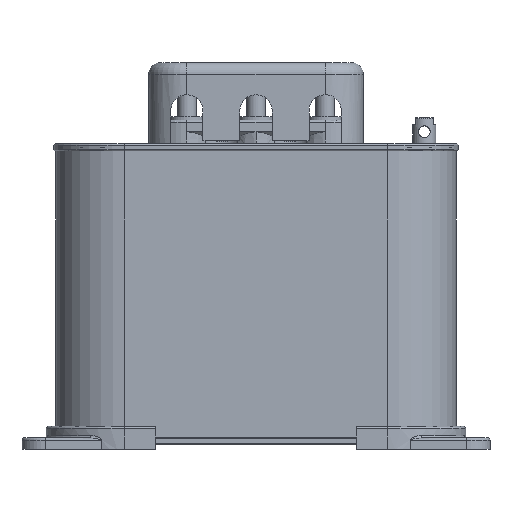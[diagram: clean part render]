
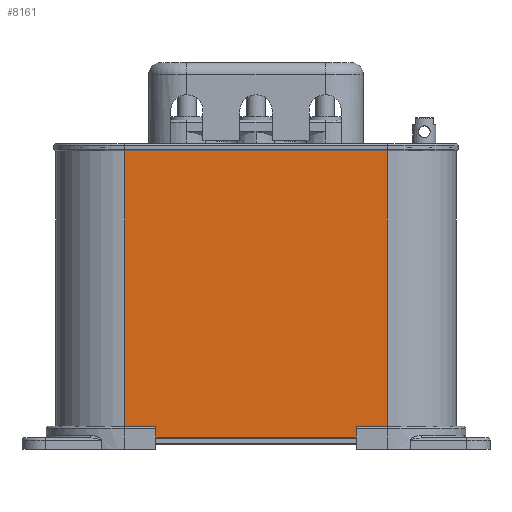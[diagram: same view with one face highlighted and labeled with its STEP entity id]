
A CAD part, front view. The second image highlights one B-rep face of the part: STEP entity #8161.
In plain terms, the highlighted planar face has unit normal (0, -1, 0).
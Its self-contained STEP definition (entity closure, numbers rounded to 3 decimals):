
#685=DIRECTION('',(-1.,0.,0.));
#686=VECTOR('',#685,13.5);
#687=CARTESIAN_POINT('',(57.,-29.78,-57.28));
#688=LINE('',#687,#686);
#689=DIRECTION('',(0.,0.,1.));
#690=VECTOR('',#689,4.);
#691=CARTESIAN_POINT('',(43.5,-29.78,-61.28));
#692=LINE('',#691,#690);
#693=DIRECTION('',(0.707,0.,-0.707));
#694=VECTOR('',#693,0.707);
#695=CARTESIAN_POINT('',(43.5,-29.78,-61.28));
#696=LINE('',#695,#694);
#697=DIRECTION('',(-1.,0.,0.));
#698=VECTOR('',#697,13.);
#699=CARTESIAN_POINT('',(57.,-29.78,-61.78));
#700=LINE('',#699,#698);
#701=DIRECTION('',(1.,0.,0.));
#702=VECTOR('',#701,114.);
#703=CARTESIAN_POINT('',(-57.,-29.78,-62.68));
#704=LINE('',#703,#702);
#705=DIRECTION('',(1.,0.,0.));
#706=VECTOR('',#705,13.);
#707=CARTESIAN_POINT('',(-57.,-29.78,-61.78));
#708=LINE('',#707,#706);
#709=DIRECTION('',(-0.707,0.,-0.707));
#710=VECTOR('',#709,0.707);
#711=CARTESIAN_POINT('',(-43.5,-29.78,-61.28));
#712=LINE('',#711,#710);
#713=DIRECTION('',(0.,0.,1.));
#714=VECTOR('',#713,4.);
#715=CARTESIAN_POINT('',(-43.5,-29.78,-61.28));
#716=LINE('',#715,#714);
#717=DIRECTION('',(1.,0.,0.));
#718=VECTOR('',#717,13.5);
#719=CARTESIAN_POINT('',(-57.,-29.78,-57.28));
#720=LINE('',#719,#718);
#721=DIRECTION('',(-1.,0.,0.));
#722=VECTOR('',#721,114.);
#723=CARTESIAN_POINT('',(57.,-29.78,62.68));
#724=LINE('',#723,#722);
#751=DIRECTION('',(0.,0.,1.));
#752=VECTOR('',#751,119.96);
#753=CARTESIAN_POINT('',(57.,-29.78,-57.28));
#754=LINE('',#753,#752);
#789=DIRECTION('',(0.,0.,-1.));
#790=VECTOR('',#789,119.96);
#791=CARTESIAN_POINT('',(-57.,-29.78,62.68));
#792=LINE('',#791,#790);
#874=DIRECTION('',(0.,0.,-1.));
#875=VECTOR('',#874,0.9);
#876=CARTESIAN_POINT('',(-57.,-29.78,-61.78));
#877=LINE('',#876,#875);
#912=DIRECTION('',(0.,0.,1.));
#913=VECTOR('',#912,0.9);
#914=CARTESIAN_POINT('',(57.,-29.78,-62.68));
#915=LINE('',#914,#913);
#5984=CARTESIAN_POINT('',(-57.,-29.78,-62.68));
#5986=VERTEX_POINT('',#5984);
#5987=CARTESIAN_POINT('',(57.,-29.78,-62.68));
#5988=VERTEX_POINT('',#5987);
#6056=CARTESIAN_POINT('',(-57.,-29.78,62.68));
#6058=VERTEX_POINT('',#6056);
#6059=CARTESIAN_POINT('',(57.,-29.78,62.68));
#6060=VERTEX_POINT('',#6059);
#6523=CARTESIAN_POINT('',(-57.,-29.78,-57.28));
#6525=VERTEX_POINT('',#6523);
#6527=CARTESIAN_POINT('',(-57.,-29.78,-61.78));
#6529=VERTEX_POINT('',#6527);
#6530=CARTESIAN_POINT('',(-43.5,-29.78,-57.28));
#6531=VERTEX_POINT('',#6530);
#6532=CARTESIAN_POINT('',(-43.5,-29.78,-61.28));
#6533=VERTEX_POINT('',#6532);
#6534=CARTESIAN_POINT('',(-44.,-29.78,-61.78));
#6535=VERTEX_POINT('',#6534);
#6835=CARTESIAN_POINT('',(57.,-29.78,-57.28));
#6836=CARTESIAN_POINT('',(43.5,-29.78,-57.28));
#6837=VERTEX_POINT('',#6835);
#6838=VERTEX_POINT('',#6836);
#6839=CARTESIAN_POINT('',(43.5,-29.78,-61.28));
#6840=VERTEX_POINT('',#6839);
#6841=CARTESIAN_POINT('',(57.,-29.78,-61.78));
#6842=CARTESIAN_POINT('',(44.,-29.78,-61.78));
#6843=VERTEX_POINT('',#6841);
#6844=VERTEX_POINT('',#6842);
#8127=CARTESIAN_POINT('',(-57.,-29.78,64.72));
#8128=DIRECTION('',(0.,-1.,0.));
#8129=DIRECTION('',(0.,0.,-1.));
#8130=AXIS2_PLACEMENT_3D('',#8127,#8128,#8129);
#8131=PLANE('',#8130);
#8133=ORIENTED_EDGE('',*,*,#8132,.T.);
#8134=ORIENTED_EDGE('',*,*,#8099,.F.);
#8136=ORIENTED_EDGE('',*,*,#8135,.T.);
#8138=ORIENTED_EDGE('',*,*,#8137,.F.);
#8140=ORIENTED_EDGE('',*,*,#8139,.F.);
#8142=ORIENTED_EDGE('',*,*,#8141,.F.);
#8144=ORIENTED_EDGE('',*,*,#8143,.F.);
#8146=ORIENTED_EDGE('',*,*,#8145,.T.);
#8148=ORIENTED_EDGE('',*,*,#8147,.F.);
#8150=ORIENTED_EDGE('',*,*,#8149,.T.);
#8152=ORIENTED_EDGE('',*,*,#8151,.F.);
#8154=ORIENTED_EDGE('',*,*,#8153,.F.);
#8156=ORIENTED_EDGE('',*,*,#8155,.F.);
#8158=ORIENTED_EDGE('',*,*,#8157,.F.);
#8159=EDGE_LOOP('',(#8133,#8134,#8136,#8138,#8140,#8142,#8144,#8146,#8148,#8150,
#8152,#8154,#8156,#8158));
#8160=FACE_OUTER_BOUND('',#8159,.F.);
#8161=ADVANCED_FACE('',(#8160),#8131,.T.);
#8099=EDGE_CURVE('',#6840,#6838,#692,.T.);
#8132=EDGE_CURVE('',#6837,#6838,#688,.T.);
#8135=EDGE_CURVE('',#6840,#6844,#696,.T.);
#8137=EDGE_CURVE('',#6843,#6844,#700,.T.);
#8139=EDGE_CURVE('',#5988,#6843,#915,.T.);
#8141=EDGE_CURVE('',#5986,#5988,#704,.T.);
#8143=EDGE_CURVE('',#6529,#5986,#877,.T.);
#8145=EDGE_CURVE('',#6529,#6535,#708,.T.);
#8147=EDGE_CURVE('',#6533,#6535,#712,.T.);
#8149=EDGE_CURVE('',#6533,#6531,#716,.T.);
#8151=EDGE_CURVE('',#6525,#6531,#720,.T.);
#8153=EDGE_CURVE('',#6058,#6525,#792,.T.);
#8155=EDGE_CURVE('',#6060,#6058,#724,.T.);
#8157=EDGE_CURVE('',#6837,#6060,#754,.T.);
